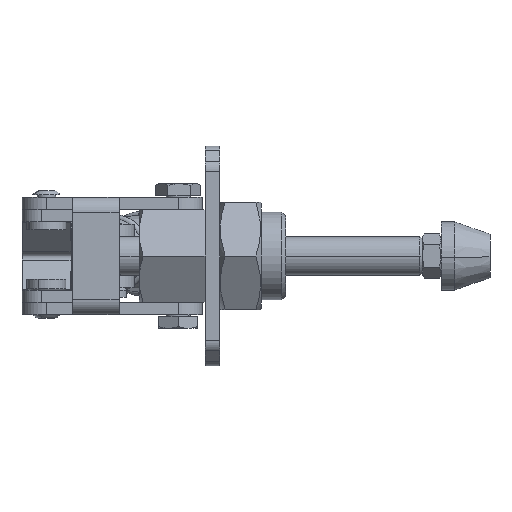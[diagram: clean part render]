
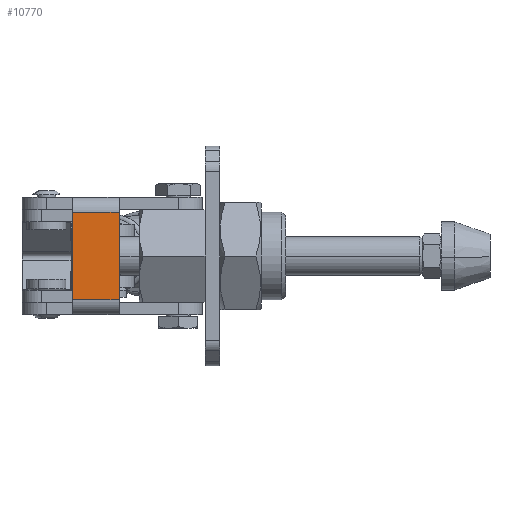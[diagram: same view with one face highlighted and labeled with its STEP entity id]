
A CAD part, front view. The second image highlights one B-rep face of the part: STEP entity #10770.
In plain terms, the highlighted planar face has unit normal (-0.002, -1, 0).
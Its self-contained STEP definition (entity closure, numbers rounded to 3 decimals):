
#1449 = CARTESIAN_POINT ( 'NONE',  ( 1.4, -8., 0. ) ) ;
#1657 = VECTOR ( 'NONE', #13415, 1000. ) ;
#3364 = EDGE_CURVE ( 'NONE', #15429, #8859, #25560, .T. ) ;
#3645 = CARTESIAN_POINT ( 'NONE',  ( 1.4, -8., -3. ) ) ;
#5190 = CARTESIAN_POINT ( 'NONE',  ( 1.4, -8., -21. ) ) ;
#6922 = CARTESIAN_POINT ( 'NONE',  ( 1.4, -8., -21. ) ) ;
#7101 = CARTESIAN_POINT ( 'NONE',  ( 0., -8., 0. ) ) ;
#8464 = EDGE_CURVE ( 'NONE', #8955, #8859, #18891, .T. ) ;
#8859 = VERTEX_POINT ( 'NONE', #9526 ) ;
#8955 = VERTEX_POINT ( 'NONE', #5190 ) ;
#9510 = DIRECTION ( 'NONE',  ( 0., 1., 0. ) ) ;
#9526 = CARTESIAN_POINT ( 'NONE',  ( 1.4, -8., -3. ) ) ;
#10770 = ADVANCED_FACE ( 'NONE', ( #22136 ), #24527, .F. ) ;
#11216 = DIRECTION ( 'NONE',  ( 0., 0., 1. ) ) ;
#12054 = LINE ( 'NONE', #6922, #25165 ) ;
#12228 = DIRECTION ( 'NONE',  ( 0., 0., 1. ) ) ;
#13380 = LINE ( 'NONE', #23121, #30427 ) ;
#13415 = DIRECTION ( 'NONE',  ( 1., 0., 0. ) ) ;
#15043 = EDGE_LOOP ( 'NONE', ( #18659, #28031, #18736, #20166 ) ) ;
#15429 = VERTEX_POINT ( 'NONE', #27297 ) ;
#15632 = EDGE_CURVE ( 'NONE', #15429, #19544, #13380, .T. ) ;
#18659 = ORIENTED_EDGE ( 'NONE', *, *, #3364, .F. ) ;
#18663 = EDGE_CURVE ( 'NONE', #19544, #8955, #12054, .T. ) ;
#18736 = ORIENTED_EDGE ( 'NONE', *, *, #18663, .T. ) ;
#18891 = LINE ( 'NONE', #1449, #24593 ) ;
#19544 = VERTEX_POINT ( 'NONE', #20082 ) ;
#20082 = CARTESIAN_POINT ( 'NONE',  ( -8.1, -8., -21. ) ) ;
#20166 = ORIENTED_EDGE ( 'NONE', *, *, #8464, .T. ) ;
#20724 = DIRECTION ( 'NONE',  ( 0., 0., -1. ) ) ;
#22136 = FACE_OUTER_BOUND ( 'NONE', #15043, .T. ) ;
#23121 = CARTESIAN_POINT ( 'NONE',  ( -8.1, -8., 0. ) ) ;
#23886 = DIRECTION ( 'NONE',  ( 1., 0., 0. ) ) ;
#24527 = PLANE ( 'NONE',  #26687 ) ;
#24593 = VECTOR ( 'NONE', #11216, 1000. ) ;
#25165 = VECTOR ( 'NONE', #23886, 1000. ) ;
#25560 = LINE ( 'NONE', #3645, #1657 ) ;
#26687 = AXIS2_PLACEMENT_3D ( 'NONE', #7101, #9510, #12228 ) ;
#27297 = CARTESIAN_POINT ( 'NONE',  ( -8.1, -8., -3. ) ) ;
#28031 = ORIENTED_EDGE ( 'NONE', *, *, #15632, .T. ) ;
#30427 = VECTOR ( 'NONE', #20724, 1000. ) ;
